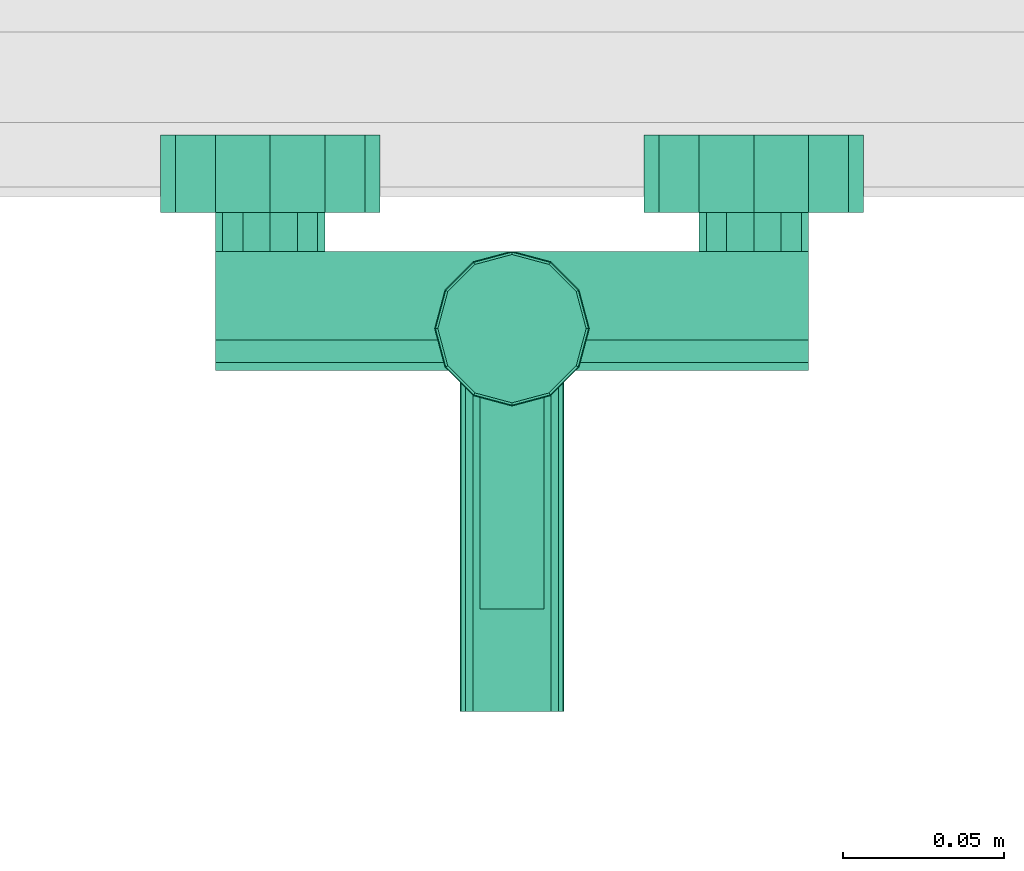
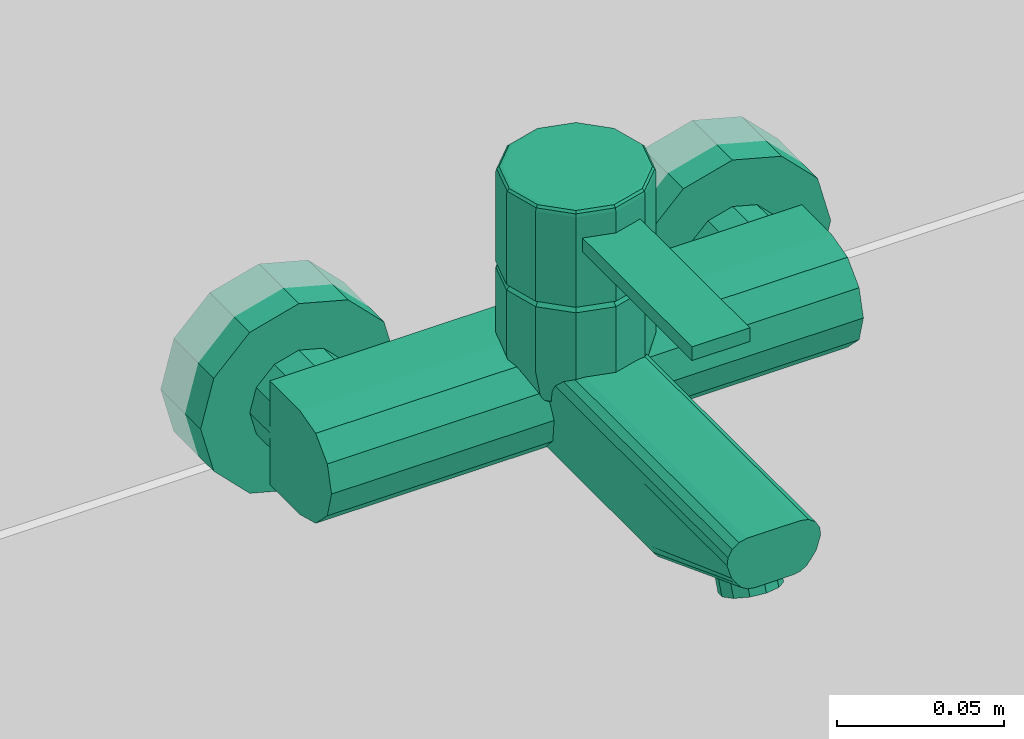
# One storey, part 268 of 301: 1 flow terminal.
"""IFC2X3 building model written with IfcOpenShell, lengths in millimetres."""

from ifc_helpers import new_model, entity, si_unit, converted_unit, derived_unit, money_unit, direction, frame, origin_with_axes, place, context, subcontext, project, spatial, faceted_brep, type_object, element, save


model = new_model("IFC2X3")

# Units and contexts
model_context = context("Model", 3, precision=0.01, world=origin_with_axes(), true_north=direction((0.0, 1.0)))
body_context = subcontext(model_context, "Body", "Model", "MODEL_VIEW")
ifc_project = project(units=[si_unit("LENGTHUNIT", "METRE", prefix="MILLI"), si_unit("AREAUNIT", "SQUARE_METRE"), si_unit("VOLUMEUNIT", "CUBIC_METRE"), converted_unit("PLANEANGLEUNIT", "DEGREE", entity("IfcPlaneAngleMeasure", 0.0174532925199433), si_unit("PLANEANGLEUNIT", "RADIAN"), dimensions=[0, 0, 0, 0, 0, 0, 0]), money_unit("EUR"), converted_unit("TIMEUNIT", "Year", entity("IfcTimeMeasure", 31557600.0), si_unit("TIMEUNIT", "SECOND"), dimensions=[0, 0, 1, 0, 0, 0, 0]), si_unit("MASSUNIT", "GRAM", prefix="KILO"), si_unit("THERMODYNAMICTEMPERATUREUNIT", "DEGREE_CELSIUS"), si_unit("LUMINOUSINTENSITYUNIT", "LUMEN"), si_unit("ENERGYUNIT", "JOULE", prefix="MEGA"), derived_unit("THERMALCONDUCTANCEUNIT", [(si_unit("POWERUNIT", "WATT"), 1), (si_unit("LENGTHUNIT", "METRE"), -1), (si_unit("THERMODYNAMICTEMPERATUREUNIT", "KELVIN"), -1)]), derived_unit("SPECIFICHEATCAPACITYUNIT", [(si_unit("ENERGYUNIT", "JOULE"), 1), (si_unit("MASSUNIT", "GRAM", prefix="KILO"), -1), (si_unit("THERMODYNAMICTEMPERATUREUNIT", "KELVIN"), -1)]), derived_unit("MASSDENSITYUNIT", [(si_unit("MASSUNIT", "GRAM", prefix="KILO"), 1), (si_unit("VOLUMEUNIT", "CUBIC_METRE"), -1)])], contexts=[model_context])

# Site, building, storey
site_placement = place(None, frame((0.0, 0.0, 8650.0), z_axis=(0.0, 0.0, 1.0), x_axis=(1.0, 0.0, 0.0)))
site = spatial("IfcSite", under=ifc_project, at=site_placement, Name="43301:001:0844", CompositionType="ELEMENT")
building_placement = place(site_placement, origin_with_axes())
building = spatial("IfcBuilding", under=site, at=building_placement, Name="Kuressaare Ametikooli tuulikute mehaanikute õppekorpus", CompositionType="ELEMENT")
storey_placement = place(building_placement, origin_with_axes())
storey = spatial("IfcBuildingStorey", under=building, at=storey_placement, Name="1.korrus", CompositionType="ELEMENT", Elevation=0.0)

# Flow terminal
sanitary_terminal_type = type_object("IfcSanitaryTerminalType", Name="Wall Mounted Tap 27", PredefinedType="NOTDEFINED")
flow_terminal_placement = place(storey_placement, frame((132289.4568804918, 8702.838490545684, 0.0), z_axis=(0.0, 0.0, 1.0), x_axis=(1.0, 0.0, 0.0)))
element("IfcFlowTerminal", 1, at=flow_terminal_placement, inside=storey, type_object=sanitary_terminal_type, Name="Kastmiskraan", context=body_context, shape_type="Brep", body=[
    faceted_brep([(-45.55513627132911, 0.0, 283.0), (-58.00000000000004, 0.0, 270.555136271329), (-75.00000000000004, 0.0, 266.0), (-92.00000000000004, 0.0, 270.5551362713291), (-104.4448637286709, 0.0, 283.0000000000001), (-109.0, 0.0, 300.0), (-104.4448637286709, 0.0, 317.0), (-92.0, 0.0, 329.444863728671), (-75.0, 0.0, 333.9999999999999), (-58.0, 0.0, 329.4448637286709), (-45.5551362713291, 0.0, 317.0), (-41.00000000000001, 0.0, 300.0), (-45.55513627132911, -24.0, 283.0), (-58.00000000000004, -24.0, 270.555136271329), (-75.00000000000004, -24.0, 266.0), (-92.00000000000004, -24.0, 270.5551362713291), (-104.4448637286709, -24.0, 283.0000000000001), (-109.0, -24.0, 300.0), (-104.4448637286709, -24.0, 317.0), (-92.0, -24.0, 329.444863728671), (-75.0, -24.0, 333.9999999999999), (-58.0, -24.0, 329.4448637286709), (-45.5551362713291, -24.0, 317.0), (-41.00000000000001, -24.0, 300.0)], [[[0, 1, 2, 3, 4, 5, 6, 7, 8, 9, 10, 11]], [[1, 0, 12, 13]], [[2, 1, 13, 14]], [[3, 2, 14, 15]], [[4, 3, 15, 16]], [[5, 4, 16, 17]], [[6, 5, 17, 18]], [[7, 6, 18, 19]], [[8, 7, 19, 20]], [[9, 8, 20, 21]], [[10, 9, 21, 22]], [[11, 10, 22, 23]], [[0, 11, 23, 12]], [[12, 23, 22, 21, 20, 19, 18, 17, 16, 15, 14, 13]]]),
    faceted_brep([(-60.27756813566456, -24.0, 291.5), (-66.50000000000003, -24.0, 285.2775681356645), (-75.00000000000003, -24.0, 283.0), (-83.50000000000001, -24.0, 285.2775681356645), (-89.72243186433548, -24.0, 291.5), (-92.00000000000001, -24.0, 300.0), (-89.72243186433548, -24.0, 308.5), (-83.5, -24.0, 314.7224318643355), (-75.00000000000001, -24.0, 317.0), (-66.5, -24.0, 314.7224318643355), (-60.27756813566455, -24.0, 308.5), (-58.00000000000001, -24.0, 300.0), (-60.27756813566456, -36.00000000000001, 291.5), (-66.50000000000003, -36.00000000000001, 285.2775681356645), (-75.00000000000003, -36.00000000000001, 283.0), (-83.50000000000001, -36.00000000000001, 285.2775681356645), (-89.72243186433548, -36.00000000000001, 291.5), (-92.00000000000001, -36.00000000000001, 300.0), (-89.72243186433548, -36.00000000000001, 308.5), (-83.5, -36.0, 314.7224318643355), (-75.00000000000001, -36.0, 317.0), (-66.5, -36.0, 314.7224318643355), (-60.27756813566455, -36.00000000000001, 308.5), (-58.00000000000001, -36.00000000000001, 300.0)], [[[0, 1, 2, 3, 4, 5, 6, 7, 8, 9, 10, 11]], [[1, 0, 12, 13]], [[2, 1, 13, 14]], [[3, 2, 14, 15]], [[4, 3, 15, 16]], [[5, 4, 16, 17]], [[6, 5, 17, 18]], [[7, 6, 18, 19]], [[8, 7, 19, 20]], [[9, 8, 20, 21]], [[10, 9, 21, 22]], [[11, 10, 22, 23]], [[0, 11, 23, 12]], [[12, 23, 22, 21, 20, 19, 18, 17, 16, 15, 14, 13]]]),
    faceted_brep([(45.55513627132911, 0.0, 283.0), (41.00000000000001, 0.0, 300.0), (45.5551362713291, 0.0, 317.0), (58.0, 0.0, 329.4448637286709), (75.0, 0.0, 333.9999999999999), (92.0, 0.0, 329.444863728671), (104.4448637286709, 0.0, 317.0), (109.0, 0.0, 300.0), (104.4448637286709, 0.0, 283.0000000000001), (92.00000000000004, 0.0, 270.5551362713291), (75.00000000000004, 0.0, 266.0), (58.00000000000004, 0.0, 270.555136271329), (45.55513627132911, -24.0, 283.0), (41.00000000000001, -24.0, 300.0), (45.5551362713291, -24.0, 317.0), (58.0, -24.0, 329.4448637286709), (75.0, -24.0, 333.9999999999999), (92.0, -24.0, 329.444863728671), (104.4448637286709, -24.0, 317.0), (109.0, -24.0, 300.0), (104.4448637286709, -24.0, 283.0000000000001), (92.00000000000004, -24.0, 270.5551362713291), (75.00000000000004, -24.0, 266.0), (58.00000000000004, -24.0, 270.555136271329)], [[[0, 1, 2, 3, 4, 5, 6, 7, 8, 9, 10, 11]], [[0, 12, 13, 1]], [[1, 13, 14, 2]], [[2, 14, 15, 3]], [[3, 15, 16, 4]], [[4, 16, 17, 5]], [[5, 17, 18, 6]], [[6, 18, 19, 7]], [[7, 19, 20, 8]], [[8, 20, 21, 9]], [[9, 21, 22, 10]], [[10, 22, 23, 11]], [[11, 23, 12, 0]], [[12, 23, 22, 21, 20, 19, 18, 17, 16, 15, 14, 13]]]),
    faceted_brep([(60.27756813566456, -24.0, 291.5), (58.00000000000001, -24.0, 300.0), (60.27756813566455, -24.0, 308.5), (66.5, -24.0, 314.7224318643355), (75.00000000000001, -24.0, 317.0), (83.5, -24.0, 314.7224318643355), (89.72243186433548, -24.0, 308.5), (92.00000000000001, -24.0, 300.0), (89.72243186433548, -24.0, 291.5), (83.50000000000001, -24.0, 285.2775681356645), (75.00000000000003, -24.0, 283.0), (66.50000000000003, -24.0, 285.2775681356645), (60.27756813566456, -36.00000000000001, 291.5), (58.00000000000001, -36.00000000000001, 300.0), (60.27756813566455, -36.00000000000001, 308.5), (66.5, -36.0, 314.7224318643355), (75.00000000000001, -36.0, 317.0), (83.5, -36.0, 314.7224318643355), (89.72243186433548, -36.00000000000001, 308.5), (92.00000000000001, -36.00000000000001, 300.0), (89.72243186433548, -36.00000000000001, 291.5), (83.50000000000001, -36.00000000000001, 285.2775681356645), (75.00000000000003, -36.00000000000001, 283.0), (66.50000000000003, -36.00000000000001, 285.2775681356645)], [[[0, 1, 2, 3, 4, 5, 6, 7, 8, 9, 10, 11]], [[0, 12, 13, 1]], [[1, 13, 14, 2]], [[2, 14, 15, 3]], [[3, 15, 16, 4]], [[4, 16, 17, 5]], [[5, 17, 18, 6]], [[6, 18, 19, 7]], [[7, 19, 20, 8]], [[8, 20, 21, 9]], [[9, 21, 22, 10]], [[10, 22, 23, 11]], [[11, 23, 12, 0]], [[12, 23, 22, 21, 20, 19, 18, 17, 16, 15, 14, 13]]]),
    faceted_brep([(22.39230484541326, -54.0, 319.0), (23.56921938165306, -59.99999999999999, 317.3923048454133), (22.3801085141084, -63.5, 316.4544826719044), (92.0, -63.5, 316.4544826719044), (92.0, -54.0, 319.0), (24.0, -59.99999999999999, 319.0), (20.78460969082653, -72.0, 319.0), (18.42264973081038, -70.63632178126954, 308.8213672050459), (18.65321248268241, -70.45448267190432, 309.5), (92.0, -70.45448267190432, 309.5), (92.0, -36.00000000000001, 281.0), (92.0, -36.00000000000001, 319.0), (92.0, -73.00000000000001, 300.0), (92.0, -70.45448267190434, 290.5), (92.0, -63.5, 283.5455173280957), (92.0, -54.00000000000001, 281.0), (20.78460969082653, -47.99999999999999, 319.0), (0.0, -36.00000000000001, 319.0), (12.0, -39.21539030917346, 319.0), (20.78460969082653, -47.99999999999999, 343.0), (24.0, -59.99999999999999, 343.0), (20.78460969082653, -72.0, 343.0), (17.26794919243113, -71.12435565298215, 307.0), (12.00000000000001, -80.78460969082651, 319.0), (11.92314238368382, -80.65148839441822, 318.4263269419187), (12.07189135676, -80.49116546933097, 318.39470631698), (14.42686544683, -77.50984837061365, 316.68350539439), (15.88213414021, -75.13176694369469, 314.16233412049), (16.18602173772, -73.76818909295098, 311.26720650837), (15.73684210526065, -72.65546274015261, 307.0), (15.6314139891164, -71.39272474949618, 305.9984328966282), (14.99999999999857, -73.00000000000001, 300.0), (-92.0, -36.00000000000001, 281.0), (-92.0, -36.00000000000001, 319.0), (14.00000000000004, -70.45448267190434, 290.5), (12.93483876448, -64.77581392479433, 284.82133125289), (11.95567316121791, -63.5, 283.5455173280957), (13.65970594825, -67.22168918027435, 287.26720650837), (9.206486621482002, -55.73480068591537, 281.46483844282), (6.698167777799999, -54.00000000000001, 281.0), (11.38167317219, -60.70880215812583, 282.79761812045), (-6.698167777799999, -54.00000000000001, 281.0), (-92.0, -54.00000000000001, 281.0), (6.698167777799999, -128.7, 281.0), (-6.698167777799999, -128.7, 281.0), (0.0, -36.00000000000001, 343.0), (12.0, -39.21539030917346, 343.0), (19.05255888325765, -48.99999999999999, 345.0), (22.0, -59.99999999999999, 345.0), (19.05255888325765, -71.0, 345.0), (12.00000000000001, -80.78460969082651, 343.0), (9.224483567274, -81.52830707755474, 319.0), (9.224483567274, -178.7, 319.0), (12.07189135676, -178.7, 318.39470631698), (14.42686544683, -178.7, 316.68350539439), (15.88213414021, -178.7, 314.16233412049), (16.18602173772, -178.7, 311.26720650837), (13.65970594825, -128.7, 287.26720650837), (-92.0, -54.0, 319.0), (-92.0, -63.5, 283.5455173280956), (-92.0, -70.45448267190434, 290.5), (-92.0, -73.00000000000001, 300.0), (-92.0, -70.45448267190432, 309.5), (-92.0, -63.5, 316.4544826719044), (-12.00000000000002, -39.21539030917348, 319.0), (-22.39230484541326, -54.0, 319.0), (-20.78460969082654, -48.00000000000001, 319.0), (12.93483876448, -128.7, 284.82133125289), (11.38167317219, -128.7, 282.79761812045), (9.206486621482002, -128.7, 281.46483844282), (-11.38167317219, -60.70880215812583, 282.79761812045), (-11.95567316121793, -63.5, 283.5455173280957), (-9.206486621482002, -55.73480068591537, 281.46483844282), (-6.698167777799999, -156.6122297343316, 291.606647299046), (6.698167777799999, -156.6122297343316, 291.606647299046), (5.000000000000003, -155.02481037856, 291.0034279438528), (0.0, -153.7724378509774, 290.5275263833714), (-4.999999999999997, -155.02481037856, 291.0034279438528), (-9.206486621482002, -128.7, 281.46483844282), (-12.00000000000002, -39.21539030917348, 343.0), (0.0, -38.00000000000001, 345.0), (11.0, -40.94744111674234, 345.0), (-20.78460969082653, -47.99999999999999, 345.0), (-12.0, -39.21539030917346, 345.0), (0.0, -36.00000000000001, 345.0), (12.00000000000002, -39.21539030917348, 345.0), (20.78460969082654, -48.00000000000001, 345.0), (24.0, -60.00000000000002, 345.0), (20.78460969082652, -72.00000000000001, 345.0), (11.99999999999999, -80.78460969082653, 345.0), (0.0, -83.99999999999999, 345.0), (-12.00000000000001, -80.78460969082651, 345.0), (-20.78460969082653, -72.0, 345.0), (-24.0, -59.99999999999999, 345.0), (11.00000000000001, -79.05255888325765, 345.0), (-11.00000000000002, -40.94744111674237, 345.0), (-19.05255888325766, -49.00000000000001, 345.0), (-22.0, -60.00000000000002, 345.0), (-19.05255888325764, -71.00000000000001, 345.0), (-10.99999999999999, -79.05255888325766, 345.0), (0.0, -81.99999999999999, 345.0), (0.0, -83.99999999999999, 343.0), (0.0, -83.99999999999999, 319.0), (-15.88213414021, -178.7, 314.16233412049), (-16.18602173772, -178.7, 311.26720650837), (-14.65970594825, -178.7, 306.26720650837), (-12.93483876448, -178.7, 303.82133125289), (-11.38167317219, -178.7, 301.79761812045), (-9.206486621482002, -178.7, 300.46483844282), (-6.698167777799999, -178.7, 300.0), (6.698167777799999, -178.7, 300.0), (9.206486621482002, -178.7, 300.46483844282), (11.38167317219, -178.7, 301.79761812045), (12.93483876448, -178.7, 303.82133125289), (14.65970594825, -178.7, 306.26720650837), (-9.224483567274, -178.7, 319.0), (-12.07189135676, -178.7, 318.39470631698), (-14.42686544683, -178.7, 316.68350539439), (-9.224483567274, -81.52830707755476, 319.0), (-13.65970594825, -67.22168918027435, 287.26720650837), (-14.00000000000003, -70.45448267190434, 290.5), (-12.93483876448, -64.77581392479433, 284.82133125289), (-14.99999999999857, -73.00000000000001, 300.0), (-18.42264973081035, -70.63632178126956, 308.8213672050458), (-18.65321248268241, -70.45448267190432, 309.5), (-15.63141398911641, -71.39272474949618, 305.9984328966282), (-17.26794919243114, -71.12435565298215, 307.0), (-22.38010851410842, -63.5, 316.4544826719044), (-23.56921938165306, -60.00000000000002, 317.3923048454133), (-24.0, -60.00000000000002, 319.0), (-24.0, -60.00000000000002, 343.0), (-20.78460969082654, -48.00000000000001, 343.0), (9.206486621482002, -160.1976250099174, 293.4339359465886), (8.660254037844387, -158.3256179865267, 292.6213461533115), (9.206486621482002, -165.7342214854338, 295.5378426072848), (10.0, -162.8044792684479, 294.9107418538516), (-11.38167317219, -128.7, 282.79761812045), (-12.93483876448, -128.7, 284.82133125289), (-9.206486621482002, -160.1976250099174, 293.4339359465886), (-8.660254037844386, -158.3256179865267, 292.6213461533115), (8.660254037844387, -160.222444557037, 287.6296972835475), (5.000000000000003, -156.8008991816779, 286.329510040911), (0.0, -155.5485266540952, 285.8536084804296), (-4.999999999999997, -156.8008991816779, 286.329510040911), (-8.660254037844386, -160.222444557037, 287.6296972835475), (-20.78460969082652, -47.99999999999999, 378.0), (-12.0, -39.21539030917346, 378.0), (0.0, -36.00000000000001, 378.0), (12.00000000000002, -39.21539030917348, 378.0), (20.78460969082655, -48.00000000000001, 378.0), (24.0, -60.00000000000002, 378.0), (20.78460969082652, -72.00000000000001, 378.0), (11.99999999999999, -80.78460969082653, 378.0), (0.0, -83.99999999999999, 378.0), (0.0, -83.99999999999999, 370.0), (10.0, -81.32050807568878, 370.0), (10.0, -81.32050807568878, 365.0), (0.0, -83.99999999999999, 365.0), (-10.0, -81.32050807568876, 365.0), (-10.0, -81.32050807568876, 370.0), (-12.00000000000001, -80.78460969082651, 378.0), (-20.78460969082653, -72.0, 378.0), (-24.0, -59.99999999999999, 378.0), (-20.78460969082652, -72.00000000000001, 343.0), (-11.99999999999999, -80.78460969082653, 343.0), (-11.99999999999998, -80.78460969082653, 319.0), (-15.88213414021, -75.1317669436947, 314.16233412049), (-16.18602173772, -73.76818909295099, 311.26720650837), (-16.18602173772, -128.7, 311.26720650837), (-13.65970594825, -128.7, 287.26720650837), (-10.0, -162.8044792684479, 294.9107418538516), (-9.206486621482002, -165.7342214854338, 295.5378426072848), (-8.66025403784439, -167.6734537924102, 296.1735237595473), (-6.698167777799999, -169.6283175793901, 296.5527606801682), (0.0, -172.4681094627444, 297.6318815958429), (4.999999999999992, -171.2157369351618, 297.1559800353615), (6.698167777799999, -169.6283175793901, 296.5527606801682), (-5.000000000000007, -171.2157369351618, 297.1559800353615), (8.660254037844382, -167.6734537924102, 296.1735237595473), (-11.92314238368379, -80.65148839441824, 318.4263269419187), (-12.07189135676, -80.49116546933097, 318.39470631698), (-14.42686544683, -77.50984837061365, 316.68350539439), (-15.73684210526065, -72.65546274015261, 307.0), (-20.78460969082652, -72.00000000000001, 319.0), (10.0, -164.8963624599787, 289.4057860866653), (8.660254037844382, -169.5702803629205, 291.1818748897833), (-10.0, -164.8963624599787, 289.4057860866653), (4.999999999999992, -172.9918257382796, 292.4820621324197), (0.0, -174.2441982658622, 292.9579636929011), (-5.000000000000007, -172.9918257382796, 292.4820621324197), (-8.66025403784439, -169.5702803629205, 291.1818748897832), (-20.55255888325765, -48.13397459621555, 379.0), (-11.86602540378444, -39.44744111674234, 379.0), (0.0, -36.26794919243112, 379.0), (11.86602540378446, -39.44744111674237, 379.0), (20.55255888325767, -48.13397459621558, 379.0), (23.73205080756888, -60.00000000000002, 379.0), (20.55255888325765, -71.86602540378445, 379.0), (11.86602540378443, -80.55255888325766, 379.0), (10.0, -147.0, 370.0), (-10.0, -147.0, 370.0), (10.0, -147.0, 365.0), (-10.0, -147.0, 365.0), (0.0, -83.73205080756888, 379.0), (-11.86602540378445, -80.55255888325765, 379.0), (-20.55255888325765, -71.86602540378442, 379.0), (-23.73205080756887, -59.99999999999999, 379.0), (-19.91858428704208, -48.49999999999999, 379.7320508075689), (-11.5, -40.08141571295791, 379.7320508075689), (0.0, -37.00000000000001, 379.7320508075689), (11.50000000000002, -40.08141571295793, 379.7320508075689), (19.9185842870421, -48.50000000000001, 379.7320508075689), (23.0, -60.00000000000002, 379.7320508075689), (19.91858428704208, -71.50000000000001, 379.7320508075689), (11.49999999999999, -79.9185842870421, 379.7320508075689), (0.0, -82.99999999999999, 379.7320508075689), (-11.50000000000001, -79.91858428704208, 379.7320508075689), (-19.91858428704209, -71.5, 379.7320508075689), (-23.0, -59.99999999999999, 379.7320508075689), (-19.05255888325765, -48.99999999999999, 380.0), (-11.0, -40.94744111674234, 380.0), (0.0, -38.00000000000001, 380.0), (11.00000000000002, -40.94744111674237, 380.0), (19.05255888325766, -49.00000000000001, 380.0), (22.0, -60.00000000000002, 380.0), (19.05255888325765, -71.00000000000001, 380.0), (10.99999999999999, -79.05255888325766, 380.0), (0.0, -81.99999999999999, 380.0), (-11.00000000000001, -79.05255888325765, 380.0), (-19.05255888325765, -71.0, 380.0), (-22.0, -59.99999999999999, 380.0), (0.0, -60.0, 380.0)], [[[0, 1, 2, 3, 4]], [[1, 0, 5]], [[2, 1, 5, 6, 7, 8]], [[2, 8, 9, 3]], [[10, 11, 4, 3, 9, 12, 13, 14, 15]], [[16, 0, 4, 11, 17, 18]], [[0, 16, 19, 20, 5]], [[20, 21, 6, 5]], [[22, 7, 6, 23, 24, 25, 26, 27, 28, 29]], [[30, 31, 12, 9, 8, 7, 22]], [[10, 32, 33, 17, 11]], [[31, 34, 13, 12]], [[35, 36, 14, 13, 34, 37]], [[38, 39, 15, 14, 36, 40]], [[41, 42, 32, 10, 15, 39, 43, 44]], [[18, 17, 45, 46]], [[16, 18, 46, 19]], [[19, 47, 48, 20]], [[20, 48, 49, 21]], [[21, 50, 23, 6]], [[23, 51, 24]], [[52, 53, 25, 24, 51]], [[53, 54, 26, 25]], [[54, 55, 27, 26]], [[56, 28, 27, 55]], [[31, 30, 29, 28, 56, 57, 37, 34]], [[30, 22, 29]], [[58, 33, 32, 42, 59, 60, 61, 62, 63]], [[64, 17, 33, 58, 65, 66]], [[36, 35, 67, 68, 40]], [[35, 37, 57, 67]], [[39, 38, 69, 43]], [[38, 40, 68, 69]], [[70, 71, 59, 42, 41, 72]], [[73, 44, 43, 74, 75, 76, 77]], [[72, 41, 44, 78]], [[17, 64, 79, 45]], [[45, 80, 81, 46]], [[46, 81, 47, 19]], [[82, 83, 84, 85, 86, 87, 88, 89, 90, 91, 92, 93], [94, 49, 48, 47, 81, 80, 95, 96, 97, 98, 99, 100]], [[21, 49, 94, 50]], [[101, 102, 51, 23, 50]], [[103, 104, 105, 106, 107, 108, 109, 110, 111, 112, 113, 114, 56, 55, 54, 53, 52, 115, 116, 117]], [[115, 52, 51, 102, 118]], [[56, 114, 57]], [[119, 120, 60, 59, 71, 121]], [[120, 122, 61, 60]], [[123, 124, 62, 61, 122, 125, 126]], [[124, 127, 63, 62]], [[128, 65, 58, 63, 127]], [[66, 65, 129, 130, 131]], [[64, 66, 131, 79]], [[112, 68, 67, 113]], [[114, 67, 57]], [[74, 43, 69, 132, 133]], [[132, 69, 68, 112, 111, 134, 135]], [[71, 70, 136, 137, 121]], [[70, 72, 78, 136]], [[138, 78, 44, 73, 139]], [[75, 74, 133, 140, 141]], [[142, 76, 75, 141]], [[143, 77, 76, 142]], [[139, 73, 77, 143, 144]], [[79, 95, 80, 45]], [[83, 82, 145, 146]], [[84, 83, 146, 147]], [[85, 84, 147, 148]], [[86, 85, 148, 149]], [[87, 86, 149, 150]], [[88, 87, 150, 151]], [[89, 88, 151, 152]], [[153, 154, 155, 156, 157, 90, 89, 152]], [[158, 159, 154, 153, 160, 91, 90, 157]], [[92, 91, 160, 161]], [[93, 92, 161, 162]], [[82, 93, 162, 145]], [[131, 96, 95, 79]], [[130, 97, 96, 131]], [[163, 98, 97, 130]], [[164, 99, 98, 163]], [[101, 100, 99, 164]], [[50, 94, 100, 101]], [[165, 118, 102, 101, 164]], [[104, 103, 166, 167, 168]], [[105, 104, 168]], [[106, 105, 169]], [[106, 137, 136, 107]], [[107, 136, 78, 138, 170, 171, 108]], [[171, 172, 173, 109, 108]], [[174, 175, 176, 110, 109, 173, 177]], [[176, 178, 134, 111, 110]], [[114, 113, 67]], [[116, 115, 118, 179, 180]], [[117, 116, 180, 181]], [[103, 117, 181, 166]], [[120, 119, 169, 168, 167, 182, 125, 122]], [[119, 121, 137, 169]], [[124, 123, 183, 129, 128, 127]], [[126, 125, 182]], [[123, 126, 182, 167, 166, 181, 180, 179, 165, 183]], [[65, 128, 129]], [[163, 130, 129, 183]], [[133, 132, 135, 184, 140]], [[135, 134, 178, 185, 184]], [[170, 138, 139, 144, 186]], [[140, 184, 185, 187, 188, 189, 190, 186, 144, 143, 142, 141]], [[146, 145, 191, 192]], [[147, 146, 192, 193]], [[148, 147, 193, 194]], [[149, 148, 194, 195]], [[150, 149, 195, 196]], [[151, 150, 196, 197]], [[152, 151, 197, 198]], [[199, 155, 154, 159, 200]], [[201, 156, 155, 199]], [[158, 157, 156, 201, 202]], [[153, 152, 198, 203]], [[200, 159, 158, 202]], [[160, 153, 203, 204]], [[161, 160, 204, 205]], [[162, 161, 205, 206]], [[145, 162, 206, 191]], [[164, 163, 183, 165]], [[165, 179, 118]], [[105, 168, 169]], [[106, 169, 137]], [[172, 171, 170, 186, 190]], [[177, 173, 172, 190, 189]], [[187, 175, 174, 188]], [[178, 176, 175, 187, 185]], [[188, 174, 177, 189]], [[192, 191, 207, 208]], [[193, 192, 208, 209]], [[194, 193, 209, 210]], [[195, 194, 210, 211]], [[196, 195, 211, 212]], [[197, 196, 212, 213]], [[198, 197, 213, 214]], [[199, 200, 202, 201]], [[203, 198, 214, 215]], [[204, 203, 215, 216]], [[205, 204, 216, 217]], [[206, 205, 217, 218]], [[191, 206, 218, 207]], [[208, 207, 219, 220]], [[209, 208, 220, 221]], [[210, 209, 221, 222]], [[211, 210, 222, 223]], [[212, 211, 223, 224]], [[213, 212, 224, 225]], [[214, 213, 225, 226]], [[215, 214, 226, 227]], [[216, 215, 227, 228]], [[217, 216, 228, 229]], [[218, 217, 229, 230]], [[207, 218, 230, 219]], [[220, 219, 231]], [[221, 220, 231]], [[222, 221, 231]], [[223, 222, 231]], [[224, 223, 231]], [[225, 224, 231]], [[226, 225, 231]], [[227, 226, 231]], [[228, 227, 231]], [[229, 228, 231]], [[230, 229, 231]], [[219, 230, 231]]]),
])

save(model, "model.ifc")
